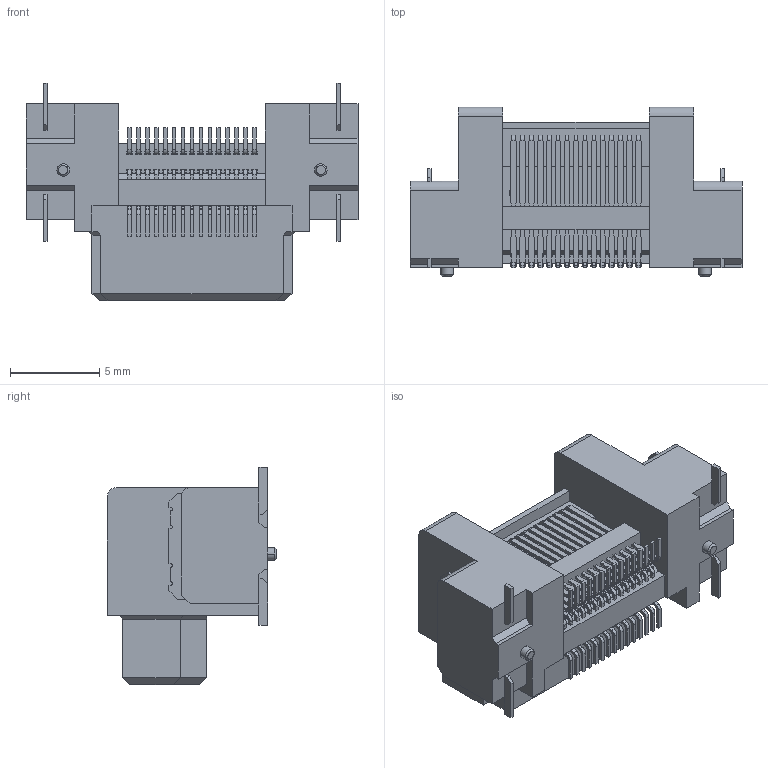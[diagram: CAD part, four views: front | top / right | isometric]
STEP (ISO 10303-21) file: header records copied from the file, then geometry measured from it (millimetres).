
FILE_DESCRIPTION(('Creo Elements/Direct Modeling STEP Export'),'2;1');
FILE_NAME('DT11-030L.stp','2018-11-12T16:52:05',(''),(''),'Creo Elements/Direct Modeling STEP processor for AP214 (Solid Model)','Creo Elements/Direct Modeling 19.0F 14-Feb-2017 (C) Parametric Technology GmbH','');
FILE_SCHEMA(('AUTOMOTIVE_DESIGN { 1 0 10303 214 1 1 1 1 }'));
Length unit declared in the file: millimetre
Products named in the file (2): DT11-030L_model
Assembly tree (1 placements, depth 2):
  DT11-030L_model
    DT11-030L_model
Bounding box: 18.62 x 9.5 x 12.2 mm (x, y, z)
Volume: 828.2 mm3; surface area: 1115.8 mm2
Topology: 1 solids, 1 shells, 1630 faces, 4566 edges, 2972 vertices
Faces by surface type: plane 1370, cylinder 256, cone 4
Entity records: 50084 total; most frequent: ORIENTED_EDGE 9132, CARTESIAN_POINT 8764, DIRECTION 7765, EDGE_CURVE 4566, VECTOR 3819, LINE 3819, VERTEX_POINT 2972, AXIS2_PLACEMENT_3D 1973
